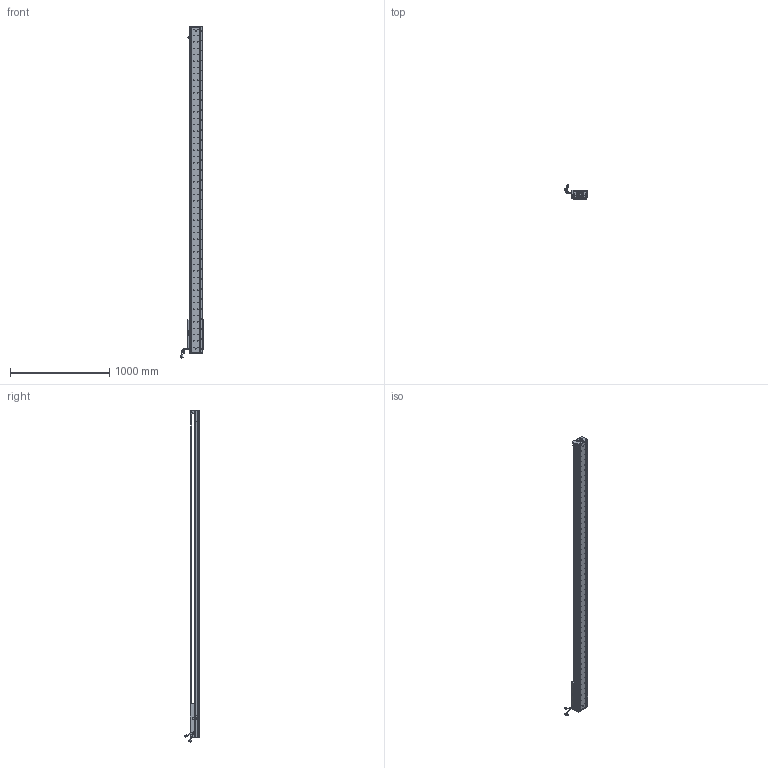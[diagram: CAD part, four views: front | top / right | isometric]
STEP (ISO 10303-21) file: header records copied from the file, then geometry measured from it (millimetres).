
FILE_DESCRIPTION (( 'STEP AP203' ), '1' );
FILE_NAME ('Z4-RY140D-1-L500-B-K.SLDASM_2900.step', '2021-05-17T08:21:56', ( '盈信电脑' ), ( '东莞市道滘镇水果街19号' ), 'SwSTEP 2.0', 'SolidWorks 2016', '' );
FILE_SCHEMA (( 'CONFIG_CONTROL_DESIGN' ));
Length unit declared in the file: millimetre
Products named in the file (36): Z-RY140感应器672光电感应片; 詩湍奻揤裔; HOLDER0; 榋妏寠巭燃_暯_M2_2; SCALE-Part-1; HARNESS-Part-2; SEAL; COVER-Part-1; 詩湍狟揤裔; SHIELDPLATE; SCREW-M1.6; 140蚥薯蝶輸; COVER; SCREW-M1.7-1; Z4-RY140D-1-L500-B-K.SLDASM_2900; Z4-RY140-L500直线电机模组底座_2900; SCREW-M1.6-2; Z4-RY140-L500詩湍100mm遵_2900; SCREW-M1.6-3; Z4-RY140圉猾敕臏賑輸(21遴); SCALE-Part-2; SEAL-Part-1; HARNESS-Part-1; 覜茼ん672; SCREW-M1.6-1; 140雄赽晤鎢ん堤盄; LABEL; SCALE; LABEL-Part-1; SCREW-M1.7; PSLH080_PSLF2; HARNESS; 140-Z-臏賑輸盄裔(21遴); PBU_SHEET; 080黍杅芛假蚾釱21遴; Z-140詩湍傷裔啣
Assembly tree (41 placements, depth 4):
  Z4-RY140D-1-L500-B-K.SLDASM_2900
    Z4-RY140-L500直线电机模组底座_2900
    Z-RY140感应器672光电感应片
    Z4-RY140圉猾敕臏賑輸(21遴)
    覜茼ん672  x3
    Z4-RY140-L500詩湍100mm遵_2900
    PSLH080_PSLF2
      SCALE
        SCALE-Part-1
        SCALE-Part-2
      HARNESS
        HARNESS-Part-1
        HARNESS-Part-2
      LABEL
        LABEL-Part-1
      COVER
        COVER-Part-1
      SEAL
        SEAL-Part-1
      榋妏寠巭燃_暯_M2_2
      SHIELDPLATE
      SCREW-M1.7
      SCREW-M1.7-1
      PBU_SHEET
      SCREW-M1.6
      SCREW-M1.6-1
      SCREW-M1.6-2
      SCREW-M1.6-3
      HOLDER0
    080黍杅芛假蚾釱21遴
    140-Z-臏賑輸盄裔(21遴)
    Z-140詩湍傷裔啣  x2
    詩湍狟揤裔  x2
    詩湍奻揤裔  x2
    140蚥薯蝶輸  x2
    140雄赽晤鎢ん堤盄
Bounding box: 239.79 x 143.88 x 3340.87 mm (x, y, z)
Volume: 10653536.8 mm3; surface area: 2760666.7 mm2
Topology: 36 solids, 36 shells, 4642 faces, 12736 edges, 8069 vertices
Faces by surface type: cylinder 2602, plane 1468, cone 450, torus 69, bspline 53
Entity records: 150452 total; most frequent: CARTESIAN_POINT 43639, ORIENTED_EDGE 22296, DIRECTION 20296, EDGE_CURVE 11148, AXIS2_PLACEMENT_3D 7574, VERTEX_POINT 7237, LINE 5148, VECTOR 5148
